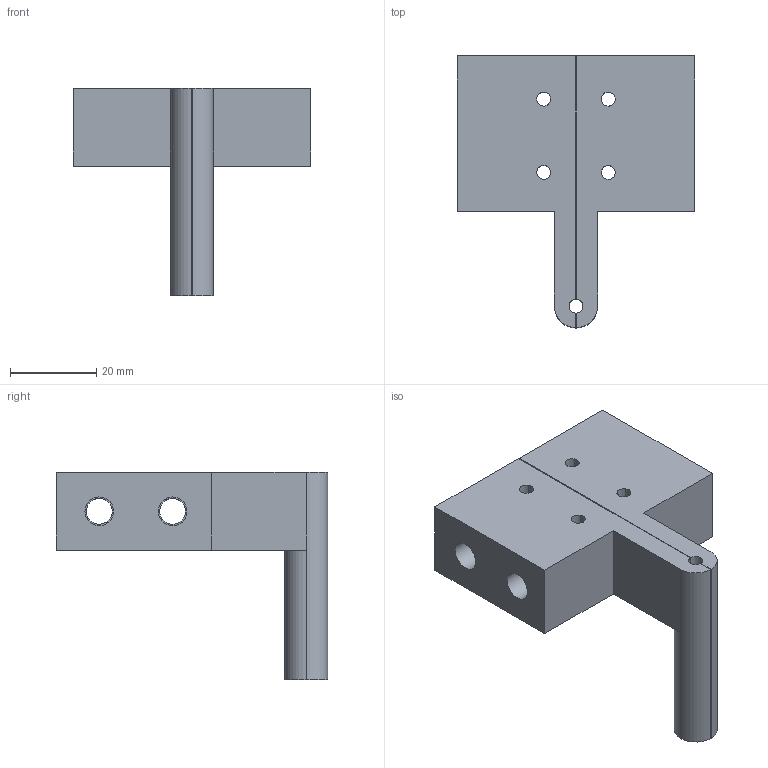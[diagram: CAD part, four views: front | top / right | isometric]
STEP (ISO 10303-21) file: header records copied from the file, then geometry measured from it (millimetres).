
FILE_DESCRIPTION(('CATIA V5 STEP Exchange'),'2;1');
FILE_NAME('D:\姚明阳\1、工装图纸\AGZ131\AGZ131.07_V1.stp','2025-02-06T03:51:48+00:00',('none'),('none'),'CATIA Version 5 Release 20 GA (IN-10)','CATIA V5 STEP AP203','none');
FILE_SCHEMA(('CONFIG_CONTROL_DESIGN'));
Length unit declared in the file: millimetre
Products named in the file (1): AGZ131.07_V1
Bounding box: 55 x 63 x 48 mm (x, y, z)
Volume: 38037.3 mm3; surface area: 14908.4 mm2
Topology: 2 solids, 2 shells, 72 faces, 188 edges, 124 vertices
Faces by surface type: cylinder 44, plane 24, cone 4
Entity records: 2285 total; most frequent: CARTESIAN_POINT 634, ORIENTED_EDGE 376, DIRECTION 226, EDGE_CURVE 188, VERTEX_POINT 124, AXIS2_PLACEMENT_3D 106, EDGE_LOOP 100, VECTOR 92
